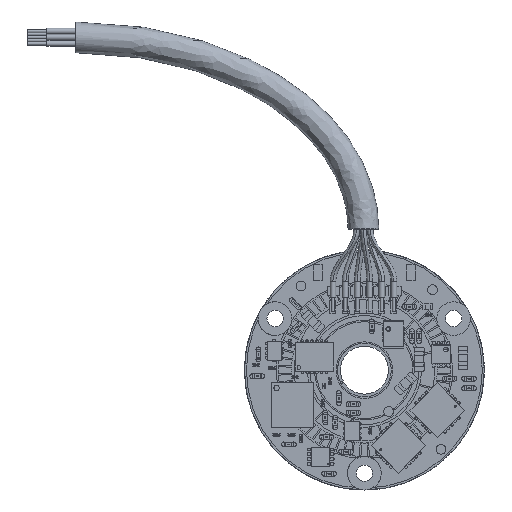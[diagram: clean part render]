
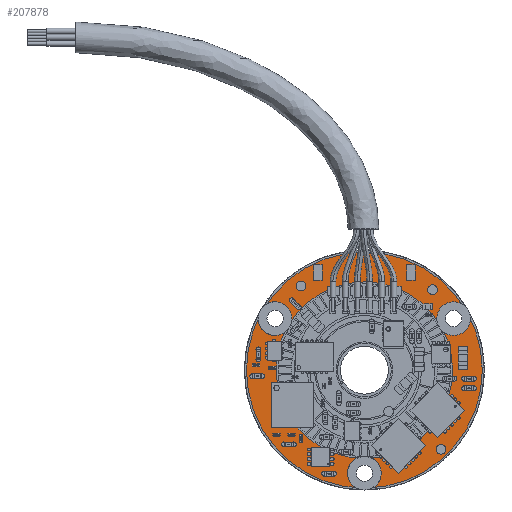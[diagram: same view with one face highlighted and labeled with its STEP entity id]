
A CAD part, front view. The second image highlights one B-rep face of the part: STEP entity #207878.
In plain terms, the highlighted planar face has unit normal (0, 1, 0).
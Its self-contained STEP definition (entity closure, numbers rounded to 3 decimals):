
#1739 = CARTESIAN_POINT ( 'NONE',  ( -9.31, 2.17, 6.225 ) ) ;
#5017 = VERTEX_POINT ( 'NONE', #331691 ) ;
#10326 = ORIENTED_EDGE ( 'NONE', *, *, #155471, .F. ) ;
#16243 = CARTESIAN_POINT ( 'NONE',  ( 0., 2.17, 0. ) ) ;
#16839 = AXIS2_PLACEMENT_3D ( 'NONE', #16243, #223740, #121649 ) ;
#26958 = DIRECTION ( 'NONE',  ( 0., 0., 1. ) ) ;
#32300 = CARTESIAN_POINT ( 'NONE',  ( -9.31, 2.17, 4.525 ) ) ;
#40343 = PLANE ( 'NONE',  #16839 ) ;
#40569 = CIRCLE ( 'NONE', #151152, 0.85 ) ;
#42101 = EDGE_LOOP ( 'NONE', ( #317019, #170783 ) ) ;
#45388 = CIRCLE ( 'NONE', #183766, 0.85 ) ;
#50017 = ORIENTED_EDGE ( 'NONE', *, *, #301352, .T. ) ;
#51344 = DIRECTION ( 'NONE',  ( 0., 0., 1. ) ) ;
#53057 = DIRECTION ( 'NONE',  ( 0., 1., 0. ) ) ;
#53239 = VERTEX_POINT ( 'NONE', #175959 ) ;
#54446 = DIRECTION ( 'NONE',  ( 0., 1., 0. ) ) ;
#56666 = VERTEX_POINT ( 'NONE', #1739 ) ;
#62475 = EDGE_CURVE ( 'NONE', #208053, #5017, #45388, .T. ) ;
#64879 = EDGE_CURVE ( 'NONE', #75855, #56666, #267503, .T. ) ;
#65348 = DIRECTION ( 'NONE',  ( 0., 1., 0. ) ) ;
#67961 = FACE_BOUND ( 'NONE', #280257, .T. ) ;
#74812 = DIRECTION ( 'NONE',  ( 0., 0., 1. ) ) ;
#75855 = VERTEX_POINT ( 'NONE', #32300 ) ;
#83324 = ORIENTED_EDGE ( 'NONE', *, *, #128528, .F. ) ;
#90053 = CARTESIAN_POINT ( 'NONE',  ( 0., 2.17, 0. ) ) ;
#108433 = CIRCLE ( 'NONE', #141518, 0.85 ) ;
#110108 = ORIENTED_EDGE ( 'NONE', *, *, #317654, .F. ) ;
#112869 = CIRCLE ( 'NONE', #118303, 0.85 ) ;
#118303 = AXIS2_PLACEMENT_3D ( 'NONE', #234873, #53057, #51344 ) ;
#119353 = DIRECTION ( 'NONE',  ( 0., 0., 1. ) ) ;
#121649 = DIRECTION ( 'NONE',  ( 0., 0., 1. ) ) ;
#125070 = CARTESIAN_POINT ( 'NONE',  ( 0., 2.17, 0. ) ) ;
#128528 = EDGE_CURVE ( 'NONE', #53239, #318124, #273337, .T. ) ;
#141518 = AXIS2_PLACEMENT_3D ( 'NONE', #302270, #199953, #220821 ) ;
#143685 = VERTEX_POINT ( 'NONE', #205690 ) ;
#148278 = VERTEX_POINT ( 'NONE', #231444 ) ;
#150579 = EDGE_CURVE ( 'NONE', #318124, #53239, #258321, .T. ) ;
#151152 = AXIS2_PLACEMENT_3D ( 'NONE', #291680, #54446, #26958 ) ;
#155471 = EDGE_CURVE ( 'NONE', #148278, #198992, #40569, .T. ) ;
#165483 = EDGE_CURVE ( 'NONE', #198992, #148278, #112869, .T. ) ;
#169327 = CIRCLE ( 'NONE', #329575, 0.85 ) ;
#170783 = ORIENTED_EDGE ( 'NONE', *, *, #64879, .F. ) ;
#173971 = DIRECTION ( 'NONE',  ( 0., 0., 1. ) ) ;
#174227 = ORIENTED_EDGE ( 'NONE', *, *, #62475, .F. ) ;
#175163 = FACE_BOUND ( 'NONE', #180810, .T. ) ;
#175959 = CARTESIAN_POINT ( 'NONE',  ( 0., 2.17, -9.2 ) ) ;
#178515 = AXIS2_PLACEMENT_3D ( 'NONE', #125070, #336276, #74812 ) ;
#180810 = EDGE_LOOP ( 'NONE', ( #83324, #274522 ) ) ;
#183766 = AXIS2_PLACEMENT_3D ( 'NONE', #218681, #300145, #246446 ) ;
#187149 = AXIS2_PLACEMENT_3D ( 'NONE', #222812, #65348, #297455 ) ;
#188273 = CARTESIAN_POINT ( 'NONE',  ( 0., 2.17, 0. ) ) ;
#189623 = ORIENTED_EDGE ( 'NONE', *, *, #165483, .F. ) ;
#193367 = DIRECTION ( 'NONE',  ( 0., 1., 0. ) ) ;
#198992 = VERTEX_POINT ( 'NONE', #205418 ) ;
#199436 = FACE_OUTER_BOUND ( 'NONE', #295591, .T. ) ;
#199953 = DIRECTION ( 'NONE',  ( 0., 1., 0. ) ) ;
#205418 = CARTESIAN_POINT ( 'NONE',  ( 0., 2.17, -9.9 ) ) ;
#205690 = CARTESIAN_POINT ( 'NONE',  ( 0., 2.17, -12.3 ) ) ;
#207878 = ADVANCED_FACE ( 'NONE', ( #67961, #329441, #253176, #199436, #175163 ), #40343, .T. ) ;
#208053 = VERTEX_POINT ( 'NONE', #216522 ) ;
#216522 = CARTESIAN_POINT ( 'NONE',  ( 9.31, 2.17, 6.225 ) ) ;
#218681 = CARTESIAN_POINT ( 'NONE',  ( 9.31, 2.17, 5.375 ) ) ;
#220821 = DIRECTION ( 'NONE',  ( 0., 0., 1. ) ) ;
#222812 = CARTESIAN_POINT ( 'NONE',  ( 0., 2.17, 0. ) ) ;
#223740 = DIRECTION ( 'NONE',  ( 0., 1., 0. ) ) ;
#229111 = AXIS2_PLACEMENT_3D ( 'NONE', #188273, #193367, #321642 ) ;
#231045 = CARTESIAN_POINT ( 'NONE',  ( 9.31, 2.17, 5.375 ) ) ;
#231444 = CARTESIAN_POINT ( 'NONE',  ( 0., 2.17, -11.6 ) ) ;
#234873 = CARTESIAN_POINT ( 'NONE',  ( 0., 2.17, -10.75 ) ) ;
#235804 = CARTESIAN_POINT ( 'NONE',  ( 0., 2.17, 9.2 ) ) ;
#236452 = CARTESIAN_POINT ( 'NONE',  ( -9.31, 2.17, 5.375 ) ) ;
#237108 = CIRCLE ( 'NONE', #187149, 12.3 ) ;
#246446 = DIRECTION ( 'NONE',  ( 0., 0., 1. ) ) ;
#253176 = FACE_BOUND ( 'NONE', #42101, .T. ) ;
#255032 = VERTEX_POINT ( 'NONE', #266480 ) ;
#258321 = CIRCLE ( 'NONE', #286069, 9.2 ) ;
#260684 = DIRECTION ( 'NONE',  ( 0., 1., 0. ) ) ;
#265848 = DIRECTION ( 'NONE',  ( 0., 0., 1. ) ) ;
#266480 = CARTESIAN_POINT ( 'NONE',  ( 0., 2.17, 12.3 ) ) ;
#267503 = CIRCLE ( 'NONE', #272900, 0.85 ) ;
#272900 = AXIS2_PLACEMENT_3D ( 'NONE', #236452, #260684, #265848 ) ;
#273337 = CIRCLE ( 'NONE', #229111, 9.2 ) ;
#273460 = DIRECTION ( 'NONE',  ( 0., 1., 0. ) ) ;
#274522 = ORIENTED_EDGE ( 'NONE', *, *, #150579, .F. ) ;
#280257 = EDGE_LOOP ( 'NONE', ( #189623, #10326 ) ) ;
#286069 = AXIS2_PLACEMENT_3D ( 'NONE', #90053, #273460, #119353 ) ;
#291680 = CARTESIAN_POINT ( 'NONE',  ( 0., 2.17, -10.75 ) ) ;
#295591 = EDGE_LOOP ( 'NONE', ( #50017, #311032 ) ) ;
#297455 = DIRECTION ( 'NONE',  ( 0., 0., 1. ) ) ;
#299529 = EDGE_CURVE ( 'NONE', #56666, #75855, #108433, .T. ) ;
#300145 = DIRECTION ( 'NONE',  ( 0., 1., 0. ) ) ;
#301352 = EDGE_CURVE ( 'NONE', #143685, #255032, #237108, .T. ) ;
#302270 = CARTESIAN_POINT ( 'NONE',  ( -9.31, 2.17, 5.375 ) ) ;
#305860 = EDGE_LOOP ( 'NONE', ( #174227, #110108 ) ) ;
#311032 = ORIENTED_EDGE ( 'NONE', *, *, #324556, .T. ) ;
#317019 = ORIENTED_EDGE ( 'NONE', *, *, #299529, .F. ) ;
#317654 = EDGE_CURVE ( 'NONE', #5017, #208053, #169327, .T. ) ;
#318124 = VERTEX_POINT ( 'NONE', #235804 ) ;
#321642 = DIRECTION ( 'NONE',  ( 0., 0., 1. ) ) ;
#324556 = EDGE_CURVE ( 'NONE', #255032, #143685, #338993, .T. ) ;
#329441 = FACE_BOUND ( 'NONE', #305860, .T. ) ;
#329575 = AXIS2_PLACEMENT_3D ( 'NONE', #231045, #329911, #173971 ) ;
#329911 = DIRECTION ( 'NONE',  ( 0., 1., 0. ) ) ;
#331691 = CARTESIAN_POINT ( 'NONE',  ( 9.31, 2.17, 4.525 ) ) ;
#336276 = DIRECTION ( 'NONE',  ( 0., 1., 0. ) ) ;
#338993 = CIRCLE ( 'NONE', #178515, 12.3 ) ;
